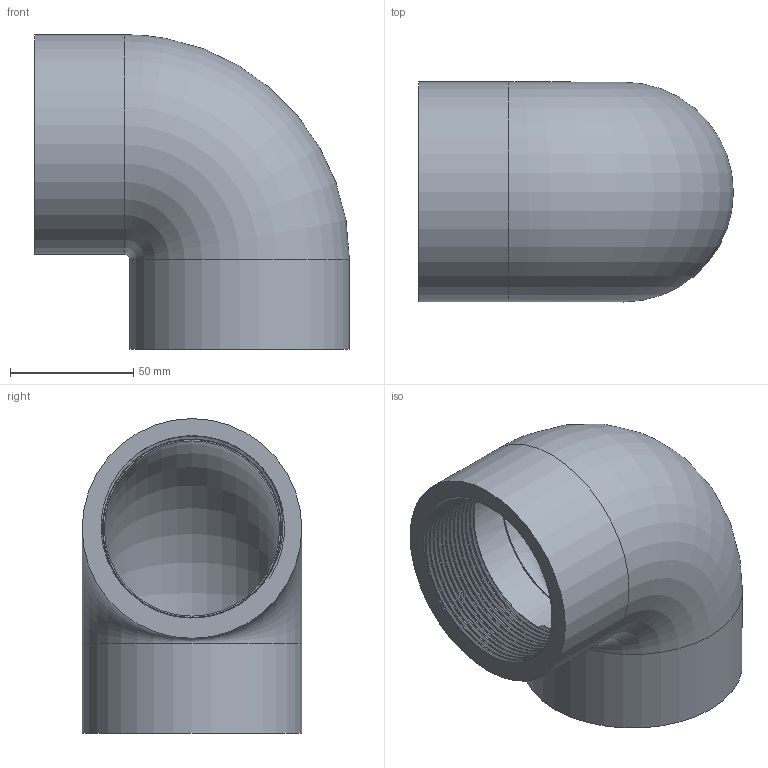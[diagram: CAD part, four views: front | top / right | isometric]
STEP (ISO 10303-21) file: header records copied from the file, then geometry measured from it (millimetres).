
FILE_DESCRIPTION(/* description */ ('PVC gomito a 90° incollaggio- filettato BSP femmina'),/* implementation_level */ '2;1');
FILE_NAME(/* name */ 'C:\Users\POLYPIPE\Desktop\DATASET INVENTOR\LIBRERIA EFFAST\RACCORDI 3DxWEB\RGR\3D_RGRGOG\3D_RGRGOG075H.stp',/* time_stamp */ '2018-01-19T17:42:12+01:00',/* author */ ('POLYPIPE'),/* organization */ ('Polypipe Italia s.r.l.'),/* preprocessor_version */ 'ST-DEVELOPER v16.1',/* originating_system */ 'Autodesk Inventor 2016',/* authorisation */ '');
FILE_SCHEMA (('CONFIG_CONTROL_DESIGN'));
Length unit declared in the file: millimetre
Products named in the file (1): 3D_RGRGOG
Bounding box: 127.5 x 89 x 127.5 mm (x, y, z)
Volume: 286387.2 mm3; surface area: 84091.2 mm2
Topology: 1 solids, 1 shells, 16 faces, 33 edges, 21 vertices
Faces by surface type: bspline 5, plane 5, cylinder 4, torus 2
Full cylindrical faces by diameter (mm): 72.226 x1, 75 x1, 89 x2
Entity records: 5133 total; most frequent: CARTESIAN_POINT 4819, ORIENTED_EDGE 52, DIRECTION 51, EDGE_LOOP 26, EDGE_CURVE 26, AXIS2_PLACEMENT_3D 24, VERTEX_POINT 20, FACE_OUTER_BOUND 16
